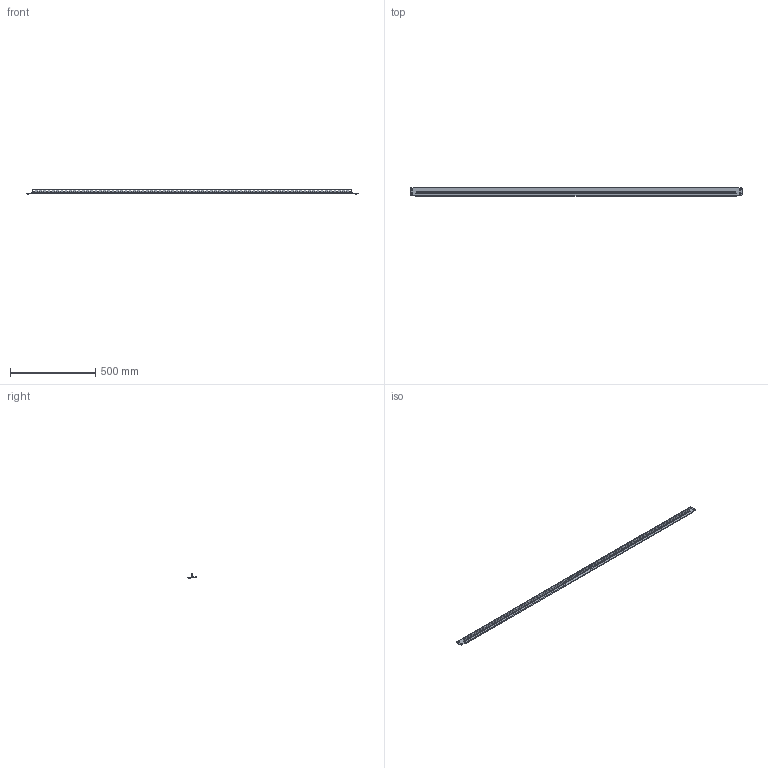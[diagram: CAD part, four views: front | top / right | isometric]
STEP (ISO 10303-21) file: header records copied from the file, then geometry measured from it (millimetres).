
FILE_DESCRIPTION(('CAx-IF Rec.Pracs.---Model Styling and Organization---1.2---2011-12-15','CAx-IF Rec.Pracs.---Geometric and Assembly Validation Properties---4.1---2014-06-16','CAx-IF Rec.Pracs.---PMI Polyline Presentation---2.0---2013-05-24'),'2;1');
FILE_NAME('R5TE20M.stp','2021-05-06T05:52:30+03:00',(''),(''),'STEP Interface 4.4 by CT CoreTechnologie','3D_Evolution4.4 by CT CoreTechnologie','');
FILE_SCHEMA(('AUTOMOTIVE_DESIGN { 1 0 10303 214 1 1 1 1 }'));
Length unit declared in the file: millimetre
Products named in the file (4): R5TE20M; R5TE20M(2)^R5TE20M; RB.0331.00.00.0_-01(-2000)^R5TE20M(2)_R5TE20M; M8-DIN 6923 (CM100800)_thread(2)^R5TE20M(2)_R5TE20M
Assembly tree (4 placements, depth 3):
  R5TE20M
    R5TE20M(2)^R5TE20M
      RB.0331.00.00.0_-01(-2000)^R5TE20M(2)_R5TE20M
      M8-DIN 6923 (CM100800)_thread(2)^R5TE20M(2)_R5TE20M  x2
Bounding box: 1945 x 49.02 x 35 mm (x, y, z)
Surface area: 346841.4 mm2 (no closed solid volume)
Topology: 0 solids, 4 shells, 438 faces, 1198 edges, 768 vertices
Faces by surface type: plane 326, bspline 64, cylinder 48
Entity records: 13209 total; most frequent: CARTESIAN_POINT 2635, ORIENTED_EDGE 2208, DIRECTION 1918, EDGE_CURVE 1104, VECTOR 1016, LINE 1016, VERTEX_POINT 720, EDGE_LOOP 548
